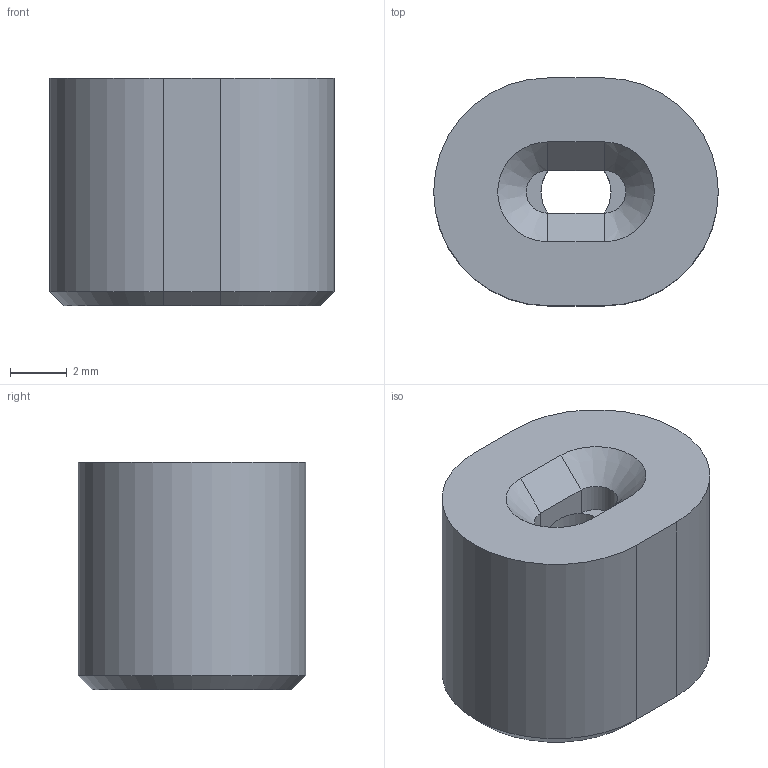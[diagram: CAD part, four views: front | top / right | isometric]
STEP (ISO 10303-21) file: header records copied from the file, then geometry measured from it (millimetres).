
FILE_DESCRIPTION(/* description */ ('Plate Slot-90° Inlay'),/* implementation_level */ '2;1');
FILE_NAME(/* name */ 'Z:\Werkstatt Server\Projekte\Atlas\Entwicklung u. Konstruktion\Konstruktion\CAD Daten\ITkPixToolV2.0\Baremodule Jig\ITPTv2.01.00.12.stp',/* time_stamp */ '2021-08-06T14:55:52+02:00',/* author */ ('Tim Kanngießer'),/* organization */ (''),/* preprocessor_version */ 'ST-DEVELOPER v18.1',/* originating_system */ 'Autodesk Inventor 2022',/* authorisation */ '');
FILE_SCHEMA (('AUTOMOTIVE_DESIGN { 1 0 10303 214 3 1 1 }'));
Length unit declared in the file: millimetre
Products named in the file (1): ITPTv2.01.00.12
Bounding box: 10 x 8 x 8 mm (x, y, z)
Volume: 483 mm3; surface area: 409.3 mm2
Topology: 1 solids, 1 shells, 23 faces, 51 edges, 30 vertices
Faces by surface type: plane 12, cone 6, cylinder 5
Full cylindrical faces by diameter (mm): 2.459 x1
Entity records: 670 total; most frequent: DIRECTION 115, CARTESIAN_POINT 109, ORIENTED_EDGE 102, EDGE_CURVE 51, AXIS2_PLACEMENT_3D 42, LINE 31, VECTOR 31, VERTEX_POINT 30
